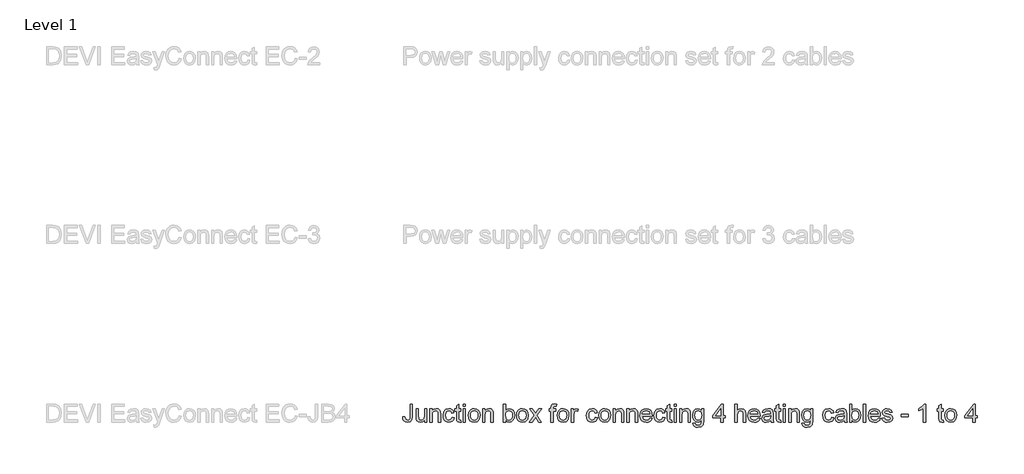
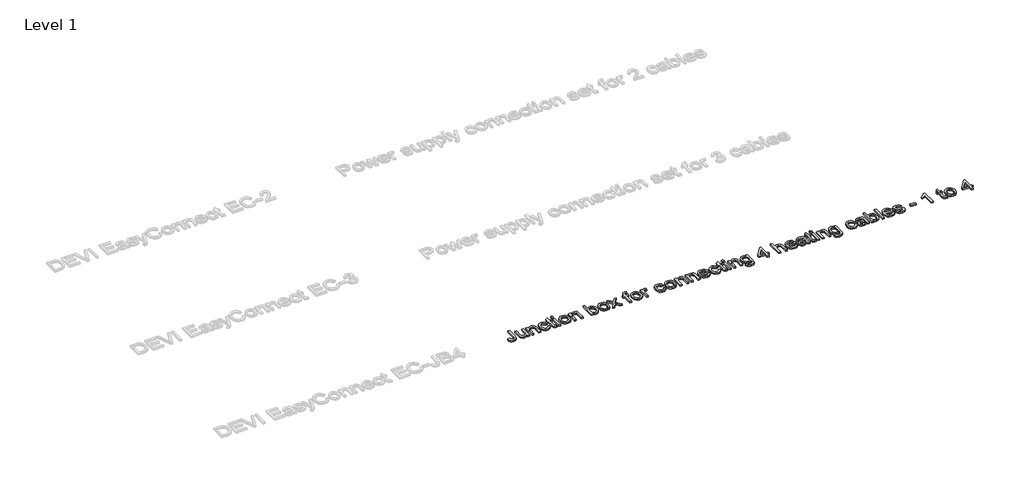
# One storey, part 2 of 11: 1 proxy.
"""IFC4 building model written with IfcOpenShell, lengths in millimetres."""

from ifc_helpers import new_model, si_unit, origin, origin_with_axes, place, context, project, spatial, polyline, outline, extrude, element, save

model = new_model("IFC4")

# Units and contexts
model_context = context("Model", 3, world=origin())
ifc_project = project(units=[si_unit("LENGTHUNIT", "METRE", prefix="MILLI")], contexts=[model_context])

# Site, building, storey
site = spatial("IfcSite", under=ifc_project)
building = spatial("IfcBuilding", under=site)
storey = spatial("IfcBuildingStorey", under=building, Name="Level 1", Elevation=0.0)

# Proxy
placement = place(None, origin())
element("IfcBuildingElementProxy", 1, Name="100mm Arial", ObjectType="100mm Arial", at=placement, inside=storey, context=model_context, shape_type="SweptSolid", body=[
    extrude(outline(polyline([(4538.675956, -455.0615641), (4551.2329947, -453.4428833), (4555.5249514, -468.2807905), (4566.1199528, -472.2784415), (4574.7161288, -470.0098358), (4579.6947984, -463.8294183), (4581.0559618, -451.3827441), (4581.0559618, -382.8095402), (4593.6130006, -382.8095402), (4593.6130006, -451.1620149), (4590.5841055, -470.6720234), (4580.9701227, -481.2057112), (4565.5313416, -484.8354802), (4553.9246647, -482.9623477), (4545.3959338, -477.3429503), (4540.2210604, -468.0263387), (4538.675956, -455.0615641)])), origin_with_axes(), (0.0, 0.0, 1.0), 10.0),
    extrude(outline(polyline([(4661.107084, -483.2658504), (4661.107084, -470.5861843), (4651.272372, -481.2731562), (4638.4455531, -484.8354802), (4626.636541, -482.3338827), (4618.4940862, -476.0553633), (4614.7539526, -466.8092625), (4614.0181886, -455.1351405), (4614.0181886, -409.4932476), (4626.5752274, -409.4932476), (4626.5752274, -449.2245031), (4627.3355168, -462.0267965), (4632.3019237, -469.543852), (4641.6583892, -472.2784415), (4652.143026, -469.4825383), (4659.0714703, -461.867381), (4661.107084, -447.8756025), (4661.107084, -409.4932476), (4673.6641227, -409.4932476), (4673.6641227, -483.2658504), (4661.107084, -483.2658504)])), origin_with_axes(), (0.0, 0.0, 1.0), 10.0),
    extrude(outline(polyline([(4690.930051, -483.2658504), (4690.930051, -409.4932476), (4703.4870898, -409.4932476), (4703.4870898, -419.7939435), (4713.0888099, -410.8911992), (4726.1976716, -407.9236178), (4738.0557346, -410.3148507), (4746.1491385, -416.5933701), (4749.9137976, -425.8272082), (4750.5759852, -437.9673141), (4750.5759852, -483.2658504), (4738.0189464, -483.2658504), (4738.0189464, -439.6595712), (4736.5719439, -428.549535), (4731.4583842, -422.6756858), (4722.8376828, -420.4806565), (4709.2137862, -425.4102753), (4704.9187639, -432.5533174), (4703.4870898, -444.1232061), (4703.4870898, -483.2658504), (4690.930051, -483.2658504)])), origin_with_axes(), (0.0, 0.0, 1.0), 10.0),
    extrude(outline(polyline([(4814.9308089, -456.582143), (4827.4878477, -458.1517729), (4823.9868373, -469.3200571), (4817.407881, -477.7598832), (4808.3702466, -483.066581), (4797.4932023, -484.8354802), (4784.1360202, -482.3676052), (4773.6912372, -474.96398), (4766.9497997, -462.9495672), (4764.7026538, -446.6493291), (4768.5408893, -425.79042), (4780.2395367, -412.3872527), (4797.321524, -407.9236178), (4807.9318539, -409.4564594), (4816.4145996, -414.0549844), (4822.4999809, -421.4739379), (4825.9182178, -431.4680655), (4813.361179, -433.0376953), (4807.5363808, -423.632179), (4797.4196259, -420.4806565), (4789.3047622, -422.0318923), (4782.8637616, -426.6855995), (4778.6607098, -434.6931643), (4777.2596926, -446.3059726), (4778.630053, -458.0751308), (4782.7411343, -466.1102867), (4789.0656389, -470.7364028), (4797.0762694, -472.2784415), (4808.9098069, -468.4279433), (4814.9308089, -456.582143)])), origin_with_axes(), (0.0, 0.0, 1.0), 10.0),
    extrude(outline(polyline([(4865.158964, -472.7934763), (4866.7285938, -483.6337324), (4857.3353402, -484.8354802), (4846.8139151, -482.7508156), (4841.5654653, -477.2816366), (4840.0448864, -463.0323407), (4840.0448864, -422.0502864), (4830.6271073, -422.0502864), (4830.6271073, -409.4932476), (4840.0448864, -409.4932476), (4840.0448864, -391.5651317), (4852.6019252, -384.1829664), (4852.6019252, -409.4932476), (4865.158964, -409.4932476), (4865.158964, -422.0502864), (4852.6019252, -422.0502864), (4852.6019252, -462.6644587), (4853.2641128, -469.1391818), (4855.4100911, -471.4323129), (4859.689785, -472.2784415), (4865.158964, -472.7934763)])), origin_with_axes(), (0.0, 0.0, 1.0), 10.0),
    extrude(outline(polyline([(4877.7160027, -395.366579), (4877.7160027, -382.8095402), (4890.2730415, -382.8095402), (4890.2730415, -395.366579), (4877.7160027, -395.366579)])), origin_with_axes(), (0.0, 0.0, 1.0), 10.0),
    extrude(outline(polyline([(4877.7160027, -483.2658504), (4877.7160027, -409.4932476), (4890.2730415, -409.4932476), (4890.2730415, -483.2658504), (4877.7160027, -483.2658504)])), origin_with_axes(), (0.0, 0.0, 1.0), 10.0),
    extrude(outline(polyline([(4905.96934, -446.379549), (4908.6855354, -428.5924545), (4916.8341215, -416.0905981), (4926.9018255, -409.9653629), (4938.9560922, -407.9236178), (4952.1477274, -410.4098869), (4962.6844809, -417.8686944), (4969.5914653, -429.7114289), (4971.8937935, -445.3494794), (4967.8225661, -467.6921793), (4955.9645031, -480.3350572), (4938.9560922, -484.8354802), (4925.6050414, -482.3584081), (4915.0805507, -474.9271918), (4908.2471426, -462.8361369), (4905.96934, -446.379549)]), holes=[polyline([(4918.5263787, -446.3550235), (4919.9795126, -457.7195115), (4924.3389142, -465.8159811), (4930.8994765, -470.6628264), (4938.9560922, -472.2784415), (4946.9759197, -470.6536293), (4953.5242192, -465.7791929), (4957.8836208, -457.5754244), (4959.3367547, -445.9626161), (4957.8744238, -434.9292219), (4953.487431, -426.9431169), (4946.9299344, -422.0962716), (4938.9560922, -420.4806565), (4930.8994765, -422.0901403), (4924.3389142, -426.9185915), (4919.9795126, -434.9966669), (4918.5263787, -446.3550235)])]), origin_with_axes(), (0.0, 0.0, 1.0), 10.0),
    extrude(outline(polyline([(4986.0204621, -483.2658504), (4986.0204621, -409.4932476), (4998.5775009, -409.4932476), (4998.5775009, -419.7939435), (5008.1792209, -410.8911992), (5021.2880827, -407.9236178), (5033.1461457, -410.3148507), (5041.2395496, -416.5933701), (5045.0042087, -425.8272082), (5045.6663963, -437.9673141), (5045.6663963, -483.2658504), (5033.1093575, -483.2658504), (5033.1093575, -439.6595712), (5031.662355, -428.549535), (5026.5487952, -422.6756858), (5017.9280938, -420.4806565), (5004.3041973, -425.4102753), (5000.009175, -432.5533174), (4998.5775009, -444.1232061), (4998.5775009, -483.2658504), (4986.0204621, -483.2658504)])), origin_with_axes(), (0.0, 0.0, 1.0), 10.0),
    extrude(outline(polyline([(5114.7301095, -483.2658504), (5102.1730707, -483.2658504), (5102.1730707, -382.8095402), (5114.7301095, -382.8095402), (5114.7301095, -420.0637236), (5123.5224892, -410.9586442), (5134.4485844, -407.9236178), (5147.0301487, -410.6582073), (5156.7912843, -418.346941), (5162.7877608, -430.3031058), (5164.9582646, -445.275903), (5162.7111187, -462.0390593), (5155.9696811, -474.5102589), (5146.0767212, -482.2541749), (5134.375008, -484.8354802), (5123.2097895, -481.5061482), (5114.7301095, -471.518152), (5114.7301095, -483.2658504)]), holes=[polyline([(5114.7301095, -445.8645142), (5118.1636748, -463.4247481), (5124.7426311, -470.0650181), (5133.2958875, -472.2784415), (5140.5431628, -470.647498), (5146.7358431, -465.7546674), (5150.9848801, -457.6306067), (5152.4012258, -446.3059726), (5151.0431281, -434.8157916), (5146.968835, -426.7837014), (5140.9692928, -422.0564178), (5133.8354478, -420.4806565), (5126.5881725, -422.1116001), (5120.3954922, -427.0044306), (5116.1464552, -434.9813385), (5114.7301095, -445.8645142)])]), origin_with_axes(), (0.0, 0.0, 1.0), 10.0),
    extrude(outline(polyline([(5175.9456735, -446.379549), (5178.6618689, -428.5924545), (5186.8104551, -416.0905981), (5196.878159, -409.9653629), (5208.9324257, -407.9236178), (5222.1240609, -410.4098869), (5232.6608144, -417.8686944), (5239.5677989, -429.7114289), (5241.870127, -445.3494794), (5237.7988996, -467.6921793), (5225.9408366, -480.3350572), (5208.9324257, -484.8354802), (5195.581375, -482.3584081), (5185.0568842, -474.9271918), (5178.2234762, -462.8361369), (5175.9456735, -446.379549)]), holes=[polyline([(5188.5027123, -446.3550235), (5189.9558461, -457.7195115), (5194.3152478, -465.8159811), (5200.87581, -470.6628264), (5208.9324257, -472.2784415), (5216.9522532, -470.6536293), (5223.5005527, -465.7791929), (5227.8599544, -457.5754244), (5229.3130883, -445.9626161), (5227.8507573, -434.9292219), (5223.4637645, -426.9431169), (5216.906268, -422.0962716), (5208.9324257, -420.4806565), (5200.87581, -422.0901403), (5194.3152478, -426.9185915), (5189.9558461, -434.9966669), (5188.5027123, -446.3550235)])]), origin_with_axes(), (0.0, 0.0, 1.0), 10.0),
    extrude(outline(polyline([(5248.1486464, -483.2658504), (5274.9795066, -446.1833453), (5249.7182762, -409.4932476), (5264.8259635, -409.4932476), (5277.0151203, -427.1515834), (5282.7050285, -435.4902419), (5287.6346472, -428.6721623), (5301.5160612, -409.4932476), (5316.6237484, -409.4932476), (5290.0871939, -446.1833453), (5315.6427298, -483.2658504), (5300.5350425, -483.2658504), (5285.1575751, -460.9722015), (5282.3371465, -456.9009741), (5263.2563337, -483.2658504), (5248.1486464, -483.2658504)])), origin_with_axes(), (0.0, 0.0, 1.0), 10.0),
    extrude(outline(polyline([(5369.0101446, -483.2658504), (5369.0101446, -422.0502864), (5358.0227356, -422.0502864), (5358.0227356, -409.4932476), (5369.0101446, -409.4932476), (5369.0101446, -402.0620313), (5370.3345197, -391.5896572), (5376.7601919, -384.10939), (5389.4153326, -381.2399104), (5400.8687253, -382.6133365), (5399.0293154, -394.3855604), (5391.7943028, -393.7969492), (5383.8848399, -395.8816138), (5381.5671833, -403.6561866), (5381.5671833, -409.4932476), (5395.6938519, -409.4932476), (5395.6938519, -422.0502864), (5381.5671833, -422.0502864), (5381.5671833, -483.2658504), (5369.0101446, -483.2658504)])), origin_with_axes(), (0.0, 0.0, 1.0), 10.0),
    extrude(outline(polyline([(5403.5420012, -446.379549), (5406.2581966, -428.5924545), (5414.4067828, -416.0905981), (5424.4744867, -409.9653629), (5436.5287534, -407.9236178), (5449.7203886, -410.4098869), (5460.2571421, -417.8686944), (5467.1641265, -429.7114289), (5469.4664547, -445.3494794), (5465.3952273, -467.6921793), (5453.5371643, -480.3350572), (5436.5287534, -484.8354802), (5423.1777027, -482.3584081), (5412.6532119, -474.9271918), (5405.8198039, -462.8361369), (5403.5420012, -446.379549)]), holes=[polyline([(5416.0990399, -446.3550235), (5417.5521738, -457.7195115), (5421.9115755, -465.8159811), (5428.4721377, -470.6628264), (5436.5287534, -472.2784415), (5444.5485809, -470.6536293), (5451.0968804, -465.7791929), (5455.4562821, -457.5754244), (5456.9094159, -445.9626161), (5455.447085, -434.9292219), (5451.0600922, -426.9431169), (5444.5025956, -422.0962716), (5436.5287534, -420.4806565), (5428.4721377, -422.0901403), (5421.9115755, -426.9185915), (5417.5521738, -434.9966669), (5416.0990399, -446.3550235)])]), origin_with_axes(), (0.0, 0.0, 1.0), 10.0),
    extrude(outline(polyline([(5483.5931233, -483.2658504), (5483.5931233, -409.4932476), (5494.5805322, -409.4932476), (5494.5805322, -420.4070801), (5502.3796305, -410.3516389), (5510.2277798, -407.9236178), (5522.8338695, -411.7986415), (5518.6400147, -423.0558305), (5509.8108468, -420.4806565), (5502.7107243, -422.9577286), (5498.1857758, -429.8248592), (5496.1501621, -444.4910881), (5496.1501621, -483.2658504), (5483.5931233, -483.2658504)])), origin_with_axes(), (0.0, 0.0, 1.0), 10.0),
    extrude(outline(polyline([(5617.0116602, -456.582143), (5629.568699, -458.1517729), (5626.0676887, -469.3200571), (5619.4887323, -477.7598832), (5610.451098, -483.066581), (5599.5740537, -484.8354802), (5586.2168716, -482.3676052), (5575.7720886, -474.96398), (5569.030651, -462.9495672), (5566.7835052, -446.6493291), (5570.6217406, -425.79042), (5582.3203881, -412.3872527), (5599.4023754, -407.9236178), (5610.0127053, -409.4564594), (5618.4954509, -414.0549844), (5624.5808323, -421.4739379), (5627.9990692, -431.4680655), (5615.4420304, -433.0376953), (5609.6172321, -423.632179), (5599.5004773, -420.4806565), (5591.3856136, -422.0318923), (5584.944613, -426.6855995), (5580.7415612, -434.6931643), (5579.3405439, -446.3059726), (5580.7109044, -458.0751308), (5584.8219857, -466.1102867), (5591.1464903, -470.7364028), (5599.1571207, -472.2784415), (5610.9906582, -468.4279433), (5617.0116602, -456.582143)])), origin_with_axes(), (0.0, 0.0, 1.0), 10.0),
    extrude(outline(polyline([(5637.4168482, -446.379549), (5640.1330436, -428.5924545), (5648.2816298, -416.0905981), (5658.3493338, -409.9653629), (5670.4036005, -407.9236178), (5683.5952357, -410.4098869), (5694.1319892, -417.8686944), (5701.0389736, -429.7114289), (5703.3413018, -445.3494794), (5699.2700744, -467.6921793), (5687.4120114, -480.3350572), (5670.4036005, -484.8354802), (5657.0525497, -482.3584081), (5646.528059, -474.9271918), (5639.6946509, -462.8361369), (5637.4168482, -446.379549)]), holes=[polyline([(5649.973887, -446.3550235), (5651.4270209, -457.7195115), (5655.7864225, -465.8159811), (5662.3469848, -470.6628264), (5670.4036005, -472.2784415), (5678.423428, -470.6536293), (5684.9717275, -465.7791929), (5689.3311291, -457.5754244), (5690.784263, -445.9626161), (5689.3219321, -434.9292219), (5684.9349393, -426.9431169), (5678.3774427, -422.0962716), (5670.4036005, -420.4806565), (5662.3469848, -422.0901403), (5655.7864225, -426.9185915), (5651.4270209, -434.9966669), (5649.973887, -446.3550235)])]), origin_with_axes(), (0.0, 0.0, 1.0), 10.0),
    extrude(outline(polyline([(5717.4679704, -483.2658504), (5717.4679704, -409.4932476), (5730.0250092, -409.4932476), (5730.0250092, -419.7939435), (5739.6267292, -410.8911992), (5752.735591, -407.9236178), (5764.593654, -410.3148507), (5772.6870579, -416.5933701), (5776.4517169, -425.8272082), (5777.1139045, -437.9673141), (5777.1139045, -483.2658504), (5764.5568658, -483.2658504), (5764.5568658, -439.6595712), (5763.1098633, -428.549535), (5757.9963035, -422.6756858), (5749.3756021, -420.4806565), (5735.7517055, -425.4102753), (5731.4566833, -432.5533174), (5730.0250092, -444.1232061), (5730.0250092, -483.2658504), (5717.4679704, -483.2658504)])), origin_with_axes(), (0.0, 0.0, 1.0), 10.0),
    extrude(outline(polyline([(5794.3798328, -483.2658504), (5794.3798328, -409.4932476), (5806.9368716, -409.4932476), (5806.9368716, -419.7939435), (5816.5385917, -410.8911992), (5829.6474534, -407.9236178), (5841.5055164, -410.3148507), (5849.5989203, -416.5933701), (5853.3635794, -425.8272082), (5854.025767, -437.9673141), (5854.025767, -483.2658504), (5841.4687282, -483.2658504), (5841.4687282, -439.6595712), (5840.0217257, -428.549535), (5834.908166, -422.6756858), (5826.2874646, -420.4806565), (5812.663568, -425.4102753), (5808.3685457, -432.5533174), (5806.9368716, -444.1232061), (5806.9368716, -483.2658504), (5794.3798328, -483.2658504)])), origin_with_axes(), (0.0, 0.0, 1.0), 10.0),
    extrude(outline(polyline([(5922.9423274, -461.2910325), (5935.2541115, -462.8606624), (5930.8180678, -472.13742), (5923.7394051, -479.0719956), (5914.1775389, -483.3946091), (5902.2918848, -484.8354802), (5887.5582109, -482.3492111), (5876.221314, -474.8904036), (5868.9924328, -462.9434358), (5866.5828058, -446.9926857), (5869.0169583, -430.5054409), (5876.3194159, -418.1752627), (5887.5030286, -410.486529), (5901.5806462, -407.9236178), (5915.2198712, -410.4803976), (5926.1183753, -418.1507372), (5933.2644831, -430.45639), (5935.646519, -446.9191093), (5935.5729426, -450.3036236), (5879.1398445, -450.3036236), (5881.313414, -459.7030086), (5886.3625944, -466.6130587), (5893.6497236, -470.8620958), (5902.5371394, -472.2784415), (5914.8489235, -469.6542166), (5922.9423274, -461.2910325)]), holes=[polyline([(5879.1398445, -437.7465849), (5923.0894802, -437.7465849), (5918.0617596, -426.3667685), (5910.7409079, -421.9521845), (5901.5315953, -420.4806565), (5886.0682888, -425.1772834), (5881.2030494, -430.6679221), (5879.1398445, -437.7465849)])]), origin_with_axes(), (0.0, 0.0, 1.0), 10.0),
    extrude(outline(polyline([(5995.2924531, -456.582143), (6007.8494919, -458.1517729), (6004.3484816, -469.3200571), (5997.7695252, -477.7598832), (5988.7318909, -483.066581), (5977.8548466, -484.8354802), (5964.4976645, -482.3676052), (5954.0528815, -474.96398), (5947.3114439, -462.9495672), (5945.0642981, -446.6493291), (5948.9025335, -425.79042), (5960.601181, -412.3872527), (5977.6831683, -407.9236178), (5988.2934982, -409.4564594), (5996.7762439, -414.0549844), (6002.8616252, -421.4739379), (6006.2798621, -431.4680655), (5993.7228233, -433.0376953), (5987.898025, -423.632179), (5977.7812702, -420.4806565), (5969.6664065, -422.0318923), (5963.2254059, -426.6855995), (5959.0223541, -434.6931643), (5957.6213368, -446.3059726), (5958.9916973, -458.0751308), (5963.1027786, -466.1102867), (5969.4272832, -470.7364028), (5977.4379136, -472.2784415), (5989.2714512, -468.4279433), (5995.2924531, -456.582143)])), origin_with_axes(), (0.0, 0.0, 1.0), 10.0),
    extrude(outline(polyline([(6045.5206082, -472.7934763), (6047.0902381, -483.6337324), (6037.6969845, -484.8354802), (6027.1755594, -482.7508156), (6021.9271096, -477.2816366), (6020.4065307, -463.0323407), (6020.4065307, -422.0502864), (6010.9887516, -422.0502864), (6010.9887516, -409.4932476), (6020.4065307, -409.4932476), (6020.4065307, -391.5651317), (6032.9635694, -384.1829664), (6032.9635694, -409.4932476), (6045.5206082, -409.4932476), (6045.5206082, -422.0502864), (6032.9635694, -422.0502864), (6032.9635694, -462.6644587), (6033.625757, -469.1391818), (6035.7717353, -471.4323129), (6040.0514292, -472.2784415), (6045.5206082, -472.7934763)])), origin_with_axes(), (0.0, 0.0, 1.0), 10.0),
    extrude(outline(polyline([(6058.077647, -395.366579), (6058.077647, -382.8095402), (6070.6346858, -382.8095402), (6070.6346858, -395.366579), (6058.077647, -395.366579)])), origin_with_axes(), (0.0, 0.0, 1.0), 10.0),
    extrude(outline(polyline([(6058.077647, -483.2658504), (6058.077647, -409.4932476), (6070.6346858, -409.4932476), (6070.6346858, -483.2658504), (6058.077647, -483.2658504)])), origin_with_axes(), (0.0, 0.0, 1.0), 10.0),
    extrude(outline(polyline([(6089.4702439, -483.2658504), (6089.4702439, -409.4932476), (6102.0272827, -409.4932476), (6102.0272827, -419.7939435), (6111.6290027, -410.8911992), (6124.7378645, -407.9236178), (6136.5959275, -410.3148507), (6144.6893314, -416.5933701), (6148.4539905, -425.8272082), (6149.1161781, -437.9673141), (6149.1161781, -483.2658504), (6136.5591393, -483.2658504), (6136.5591393, -439.6595712), (6135.1121368, -428.549535), (6129.998577, -422.6756858), (6121.3778756, -420.4806565), (6107.7539791, -425.4102753), (6103.4589568, -432.5533174), (6102.0272827, -444.1232061), (6102.0272827, -483.2658504), (6089.4702439, -483.2658504)])), origin_with_axes(), (0.0, 0.0, 1.0), 10.0),
    extrude(outline(polyline([(6163.2428467, -489.5443698), (6175.7998854, -491.1139996), (6179.8711129, -497.7358755), (6192.0602696, -500.5317787), (6204.911614, -497.3679935), (6211.0429806, -488.4897747), (6211.9013719, -473.8480713), (6203.0599413, -480.9114056), (6192.2809988, -483.2658504), (6179.3346183, -480.5251295), (6169.6807816, -472.3029669), (6163.675108, -460.2487002), (6161.6732168, -446.011667), (6165.2661976, -426.5507095), (6175.6649954, -412.7796601), (6191.6678622, -407.9236178), (6202.8698689, -410.67047), (6211.9013719, -418.9110267), (6211.9013719, -409.4932476), (6224.4584107, -409.4932476), (6224.4584107, -473.1858837), (6221.0248454, -497.57646), (6210.1478011, -508.9194882), (6191.815015, -513.0888175), (6180.1316959, -511.6203552), (6170.9315804, -507.2149683), (6165.03014, -499.8603941), (6163.2428467, -489.5443698)]), holes=[polyline([(6174.2302556, -445.1532757), (6175.5699592, -456.6710478), (6179.58907, -464.5897078), (6185.6315318, -469.1790357), (6193.0412883, -470.7088116), (6200.3958625, -469.1882327), (6206.4689811, -464.626496), (6210.5432742, -456.8090036), (6211.9013719, -445.5211577), (6210.5034203, -434.6349163), (6206.3095656, -426.7959641), (6200.1475422, -422.0594834), (6192.8450846, -420.4806565), (6185.6744513, -422.034958), (6179.6626464, -426.6978623), (6175.5883533, -434.4203185), (6174.2302556, -445.1532757)])]), origin_with_axes(), (0.0, 0.0, 1.0), 10.0),
    extrude(outline(polyline([(6320.2058313, -483.2658504), (6320.2058313, -459.7214027), (6274.6865657, -459.7214027), (6274.6865657, -447.1643639), (6323.345091, -384.3791701), (6332.76287, -384.3791701), (6332.76287, -447.1643639), (6345.3199088, -447.1643639), (6345.3199088, -459.7214027), (6332.76287, -459.7214027), (6332.76287, -483.2658504), (6320.2058313, -483.2658504)]), holes=[polyline([(6320.2058313, -447.1643639), (6320.2058313, -408.3650762), (6290.1376095, -447.1643639), (6320.2058313, -447.1643639)])]), origin_with_axes(), (0.0, 0.0, 1.0), 10.0),
    extrude(outline(polyline([(6398.6873236, -483.2658504), (6398.6873236, -382.8095402), (6411.2443624, -382.8095402), (6411.2443624, -419.7448926), (6421.0361548, -410.8789365), (6433.0965529, -407.9236178), (6447.198696, -411.1487166), (6455.7580838, -420.0637236), (6458.3332577, -436.5693625), (6458.3332577, -483.2658504), (6445.776219, -483.2658504), (6445.776219, -437.8692122), (6441.778568, -424.6254604), (6430.4478025, -420.4806565), (6420.1593694, -423.2765597), (6413.2922388, -430.8549288), (6411.2443624, -444.0741552), (6411.2443624, -483.2658504), (6398.6873236, -483.2658504)])), origin_with_axes(), (0.0, 0.0, 1.0), 10.0),
    extrude(outline(polyline([(6527.2498182, -461.2910325), (6539.5616023, -462.8606624), (6535.1255585, -472.13742), (6528.0468958, -479.0719956), (6518.4850296, -483.3946091), (6506.5993755, -484.8354802), (6491.8657016, -482.3492111), (6480.5288048, -474.8904036), (6473.2999236, -462.9434358), (6470.8902965, -446.9926857), (6473.324449, -430.5054409), (6480.6269066, -418.1752627), (6491.8105193, -410.486529), (6505.888137, -407.9236178), (6519.527362, -410.4803976), (6530.4258661, -418.1507372), (6537.5719738, -430.45639), (6539.9540097, -446.9191093), (6539.8804333, -450.3036236), (6483.4473353, -450.3036236), (6485.6209047, -459.7030086), (6490.6700851, -466.6130587), (6497.9572143, -470.8620958), (6506.8446302, -472.2784415), (6519.1564143, -469.6542166), (6527.2498182, -461.2910325)]), holes=[polyline([(6483.4473353, -437.7465849), (6527.396971, -437.7465849), (6522.3692504, -426.3667685), (6515.0483987, -421.9521845), (6505.839086, -420.4806565), (6490.3757795, -425.1772834), (6485.5105401, -430.6679221), (6483.4473353, -437.7465849)])]), origin_with_axes(), (0.0, 0.0, 1.0), 10.0),
    extrude(outline(polyline([(6599.5999439, -473.8480713), (6587.4230498, -482.3584081), (6573.9708316, -484.8354802), (6563.4769976, -483.3455582), (6555.7361473, -478.8757919), (6550.9628784, -472.0883691), (6549.3717888, -463.6454773), (6551.7752845, -453.7126634), (6558.0905921, -446.5021763), (6566.8829718, -442.381898), (6577.7477534, -440.4934371), (6599.5263675, -436.176955), (6599.5999439, -433.3810518), (6596.1418531, -424.1104256), (6582.2604392, -420.4806565), (6569.5562476, -422.896415), (6563.4984574, -431.4680655), (6550.9414187, -429.8984356), (6556.3738095, -417.6357025), (6567.3121674, -410.4497408), (6583.87912, -407.9236178), (6599.0971718, -410.1554352), (6607.6933478, -415.7595043), (6611.543846, -424.2821038), (6612.1569827, -435.2695128), (6612.1569827, -450.8922348), (6612.7946448, -472.7076371), (6615.2962423, -483.2658504), (6602.7392036, -483.2658504), (6599.5999439, -473.8480713)]), holes=[polyline([(6599.5999439, -448.7339938), (6579.3419087, -452.584492), (6568.5384408, -454.6201057), (6563.6456102, -457.9310437), (6561.9288276, -462.7625605), (6565.6689612, -469.5561147), (6576.6441074, -472.2784415), (6589.348299, -469.2740718), (6597.5398047, -462.0022711), (6599.5263675, -452.2901864), (6599.5999439, -448.7339938)])]), origin_with_axes(), (0.0, 0.0, 1.0), 10.0),
    extrude(outline(polyline([(6656.1066183, -472.7934763), (6657.6762482, -483.6337324), (6648.2829946, -484.8354802), (6637.7615695, -482.7508156), (6632.5131197, -477.2816366), (6630.9925408, -463.0323407), (6630.9925408, -422.0502864), (6621.5747617, -422.0502864), (6621.5747617, -409.4932476), (6630.9925408, -409.4932476), (6630.9925408, -391.5651317), (6643.5495796, -384.1829664), (6643.5495796, -409.4932476), (6656.1066183, -409.4932476), (6656.1066183, -422.0502864), (6643.5495796, -422.0502864), (6643.5495796, -462.6644587), (6644.2117672, -469.1391818), (6646.3577455, -471.4323129), (6650.6374393, -472.2784415), (6656.1066183, -472.7934763)])), origin_with_axes(), (0.0, 0.0, 1.0), 10.0),
    extrude(outline(polyline([(6668.6636571, -395.366579), (6668.6636571, -382.8095402), (6681.2206959, -382.8095402), (6681.2206959, -395.366579), (6668.6636571, -395.366579)])), origin_with_axes(), (0.0, 0.0, 1.0), 10.0),
    extrude(outline(polyline([(6668.6636571, -483.2658504), (6668.6636571, -409.4932476), (6681.2206959, -409.4932476), (6681.2206959, -483.2658504), (6668.6636571, -483.2658504)])), origin_with_axes(), (0.0, 0.0, 1.0), 10.0),
    extrude(outline(polyline([(6700.056254, -483.2658504), (6700.056254, -409.4932476), (6712.6132928, -409.4932476), (6712.6132928, -419.7939435), (6722.2150129, -410.8911992), (6735.3238746, -407.9236178), (6747.1819376, -410.3148507), (6755.2753415, -416.5933701), (6759.0400006, -425.8272082), (6759.7021882, -437.9673141), (6759.7021882, -483.2658504), (6747.1451494, -483.2658504), (6747.1451494, -439.6595712), (6745.6981469, -428.549535), (6740.5845872, -422.6756858), (6731.9638857, -420.4806565), (6718.3399892, -425.4102753), (6714.0449669, -432.5533174), (6712.6132928, -444.1232061), (6712.6132928, -483.2658504), (6700.056254, -483.2658504)])), origin_with_axes(), (0.0, 0.0, 1.0), 10.0),
    extrude(outline(polyline([(6773.8288568, -489.5443698), (6786.3858956, -491.1139996), (6790.457123, -497.7358755), (6802.6462798, -500.5317787), (6815.4976241, -497.3679935), (6821.6289907, -488.4897747), (6822.487382, -473.8480713), (6813.6459514, -480.9114056), (6802.867009, -483.2658504), (6789.9206284, -480.5251295), (6780.2667917, -472.3029669), (6774.2611181, -460.2487002), (6772.259227, -446.011667), (6775.8522078, -426.5507095), (6786.2510055, -412.7796601), (6802.2538723, -407.9236178), (6813.455879, -410.67047), (6822.487382, -418.9110267), (6822.487382, -409.4932476), (6835.0444208, -409.4932476), (6835.0444208, -473.1858837), (6831.6108555, -497.57646), (6820.7338112, -508.9194882), (6802.4010251, -513.0888175), (6790.7177061, -511.6203552), (6781.5175905, -507.2149683), (6775.6161502, -499.8603941), (6773.8288568, -489.5443698)]), holes=[polyline([(6784.8162657, -445.1532757), (6786.1559693, -456.6710478), (6790.1750801, -464.5897078), (6796.2175419, -469.1790357), (6803.6272984, -470.7088116), (6810.9818726, -469.1882327), (6817.0549912, -464.626496), (6821.1292843, -456.8090036), (6822.487382, -445.5211577), (6821.0894304, -434.6349163), (6816.8955757, -426.7959641), (6810.7335523, -422.0594834), (6803.4310947, -420.4806565), (6796.2604615, -422.034958), (6790.2486565, -426.6978623), (6786.1743634, -434.4203185), (6784.8162657, -445.1532757)])]), origin_with_axes(), (0.0, 0.0, 1.0), 10.0),
    extrude(outline(polyline([(6940.2096205, -456.582143), (6952.7666593, -458.1517729), (6949.2656489, -469.3200571), (6942.6866926, -477.7598832), (6933.6490582, -483.066581), (6922.7720139, -484.8354802), (6909.4148318, -482.3676052), (6898.9700488, -474.96398), (6892.2286113, -462.9495672), (6889.9814654, -446.6493291), (6893.8197009, -425.79042), (6905.5183483, -412.3872527), (6922.6003357, -407.9236178), (6933.2106655, -409.4564594), (6941.6934112, -414.0549844), (6947.7787925, -421.4739379), (6951.1970294, -431.4680655), (6938.6399906, -433.0376953), (6932.8151924, -423.632179), (6922.6984375, -420.4806565), (6914.5835738, -422.0318923), (6908.1425732, -426.6855995), (6903.9395214, -434.6931643), (6902.5385042, -446.3059726), (6903.9088646, -458.0751308), (6908.0199459, -466.1102867), (6914.3444505, -470.7364028), (6922.355081, -472.2784415), (6934.1886185, -468.4279433), (6940.2096205, -456.582143)])), origin_with_axes(), (0.0, 0.0, 1.0), 10.0),
    extrude(outline(polyline([(7010.8429636, -473.8480713), (6998.6660695, -482.3584081), (6985.2138512, -484.8354802), (6974.7200173, -483.3455582), (6966.979167, -478.8757919), (6962.2058981, -472.0883691), (6960.6148085, -463.6454773), (6963.0183042, -453.7126634), (6969.3336118, -446.5021763), (6978.1259915, -442.381898), (6988.990773, -440.4934371), (7010.7693872, -436.176955), (7010.8429636, -433.3810518), (7007.3848728, -424.1104256), (6993.5034589, -420.4806565), (6980.7992673, -422.896415), (6974.7414771, -431.4680655), (6962.1844383, -429.8984356), (6967.6168291, -417.6357025), (6978.5551871, -410.4497408), (6995.1221396, -407.9236178), (7010.3401915, -410.1554352), (7018.9363675, -415.7595043), (7022.7868657, -424.2821038), (7023.4000023, -435.2695128), (7023.4000023, -450.8922348), (7024.0376645, -472.7076371), (7026.539262, -483.2658504), (7013.9822233, -483.2658504), (7010.8429636, -473.8480713)]), holes=[polyline([(7010.8429636, -448.7339938), (6990.5849284, -452.584492), (6979.7814604, -454.6201057), (6974.8886299, -457.9310437), (6973.1718473, -462.7625605), (6976.9119809, -469.5561147), (6987.8871271, -472.2784415), (7000.5913186, -469.2740718), (7008.7828244, -462.0022711), (7010.7693872, -452.2901864), (7010.8429636, -448.7339938)])]), origin_with_axes(), (0.0, 0.0, 1.0), 10.0),
    extrude(outline(polyline([(7053.2229694, -483.2658504), (7040.6659306, -483.2658504), (7040.6659306, -382.8095402), (7053.2229694, -382.8095402), (7053.2229694, -420.0637236), (7062.0153491, -410.9586442), (7072.9414443, -407.9236178), (7085.5230086, -410.6582073), (7095.2841442, -418.346941), (7101.2806207, -430.3031058), (7103.4511245, -445.275903), (7101.2039786, -462.0390593), (7094.4625411, -474.5102589), (7084.5695811, -482.2541749), (7072.8678679, -484.8354802), (7061.7026494, -481.5061482), (7053.2229694, -471.518152), (7053.2229694, -483.2658504)]), holes=[polyline([(7053.2229694, -445.8645142), (7056.6565347, -463.4247481), (7063.235491, -470.0650181), (7071.7887474, -472.2784415), (7079.0360227, -470.647498), (7085.228703, -465.7546674), (7089.47774, -457.6306067), (7090.8940857, -446.3059726), (7089.535988, -434.8157916), (7085.4616949, -426.7837014), (7079.4621527, -422.0564178), (7072.3283077, -420.4806565), (7065.0810324, -422.1116001), (7058.8883521, -427.0044306), (7054.6393151, -434.9813385), (7053.2229694, -445.8645142)])]), origin_with_axes(), (0.0, 0.0, 1.0), 10.0),
    extrude(outline(polyline([(7117.5777931, -483.2658504), (7117.5777931, -382.8095402), (7130.1348319, -382.8095402), (7130.1348319, -483.2658504), (7117.5777931, -483.2658504)])), origin_with_axes(), (0.0, 0.0, 1.0), 10.0),
    extrude(outline(polyline([(7200.6210221, -461.2910325), (7212.9328062, -462.8606624), (7208.4967625, -472.13742), (7201.4180998, -479.0719956), (7191.8562336, -483.3946091), (7179.9705795, -484.8354802), (7165.2369056, -482.3492111), (7153.9000088, -474.8904036), (7146.6711275, -462.9434358), (7144.2615005, -446.9926857), (7146.695653, -430.5054409), (7153.9981106, -418.1752627), (7165.1817233, -410.486529), (7179.259341, -407.9236178), (7192.8985659, -410.4803976), (7203.79707, -418.1507372), (7210.9431778, -430.45639), (7213.3252137, -446.9191093), (7213.2516373, -450.3036236), (7156.8185392, -450.3036236), (7158.9921087, -459.7030086), (7164.0412891, -466.6130587), (7171.3284183, -470.8620958), (7180.2158341, -472.2784415), (7192.5276182, -469.6542166), (7200.6210221, -461.2910325)]), holes=[polyline([(7156.8185392, -437.7465849), (7200.7681749, -437.7465849), (7195.7404543, -426.3667685), (7188.4196026, -421.9521845), (7179.21029, -420.4806565), (7163.7469835, -425.1772834), (7158.8817441, -430.6679221), (7156.8185392, -437.7465849)])]), origin_with_axes(), (0.0, 0.0, 1.0), 10.0),
    extrude(outline(polyline([(7221.1733629, -461.2910325), (7233.7304017, -459.7214027), (7239.5429372, -469.0410799), (7252.8602655, -472.2784415), (7265.6625589, -469.31086), (7269.8318882, -462.3456276), (7265.6380334, -456.7047703), (7252.7131127, -453.1240523), (7233.8039781, -446.9804229), (7225.5511587, -439.806724), (7222.7429928, -429.6777064), (7224.9993357, -420.321241), (7231.1552277, -413.1720676), (7239.138267, -409.4564594), (7249.941735, -407.9236178), (7265.2211005, -410.3884271), (7274.9331852, -417.059354), (7279.2496672, -428.3288058), (7266.6926285, -429.8984356), (7261.9714762, -422.9699914), (7250.9227536, -420.4806565), (7238.9052751, -422.8596268), (7235.3000316, -428.4023822), (7236.796085, -432.0566767), (7241.4804491, -434.8280544), (7252.2961797, -437.5013302), (7270.7270677, -443.4119676), (7279.2864554, -450.1074199), (7282.3889269, -461.0212524), (7278.7468952, -473.0387309), (7268.2377329, -481.7575342), (7252.6885872, -484.8354802), (7240.0273152, -483.3516895), (7230.7873457, -478.9003174), (7224.619191, -471.5304147), (7221.1733629, -461.2910325)])), origin_with_axes(), (0.0, 0.0, 1.0), 10.0),
    extrude(outline(polyline([(7329.4778223, -453.4428833), (7329.4778223, -440.8858445), (7368.7185685, -440.8858445), (7368.7185685, -453.4428833), (7329.4778223, -453.4428833)])), origin_with_axes(), (0.0, 0.0, 1.0), 10.0),
    extrude(outline(polyline([(7466.0356189, -483.2658504), (7453.4785802, -483.2658504), (7453.4785802, -404.9805618), (7441.583729, -413.4541104), (7428.3645026, -419.7939435), (7428.3645026, -407.9236178), (7446.7708651, -396.1759194), (7457.942215, -382.8095402), (7466.0356189, -382.8095402), (7466.0356189, -483.2658504)])), origin_with_axes(), (0.0, 0.0, 1.0), 10.0),
    extrude(outline(polyline([(7564.9222992, -472.7934763), (7566.4919291, -483.6337324), (7557.0986755, -484.8354802), (7546.5772504, -482.7508156), (7541.3288006, -477.2816366), (7539.8082217, -463.0323407), (7539.8082217, -422.0502864), (7530.3904426, -422.0502864), (7530.3904426, -409.4932476), (7539.8082217, -409.4932476), (7539.8082217, -391.5651317), (7552.3652605, -384.1829664), (7552.3652605, -409.4932476), (7564.9222992, -409.4932476), (7564.9222992, -422.0502864), (7552.3652605, -422.0502864), (7552.3652605, -462.6644587), (7553.0274481, -469.1391818), (7555.1734264, -471.4323129), (7559.4531202, -472.2784415), (7564.9222992, -472.7934763)])), origin_with_axes(), (0.0, 0.0, 1.0), 10.0),
    extrude(outline(polyline([(7574.3400783, -446.379549), (7577.0562737, -428.5924545), (7585.2048599, -416.0905981), (7595.2725638, -409.9653629), (7607.3268305, -407.9236178), (7620.5184657, -410.4098869), (7631.0552192, -417.8686944), (7637.9622037, -429.7114289), (7640.2645318, -445.3494794), (7636.1933044, -467.6921793), (7624.3352414, -480.3350572), (7607.3268305, -484.8354802), (7593.9757798, -482.3584081), (7583.4512891, -474.9271918), (7576.617881, -462.8361369), (7574.3400783, -446.379549)]), holes=[polyline([(7586.8971171, -446.3550235), (7588.350251, -457.7195115), (7592.7096526, -465.8159811), (7599.2702148, -470.6628264), (7607.3268305, -472.2784415), (7615.346658, -470.6536293), (7621.8949575, -465.7791929), (7626.2543592, -457.5754244), (7627.7074931, -445.9626161), (7626.2451621, -434.9292219), (7621.8581693, -426.9431169), (7615.3006728, -422.0962716), (7607.3268305, -420.4806565), (7599.2702148, -422.0901403), (7592.7096526, -426.9185915), (7588.350251, -434.9966669), (7586.8971171, -446.3550235)])]), origin_with_axes(), (0.0, 0.0, 1.0), 10.0),
    extrude(outline(polyline([(7731.3030629, -483.2658504), (7731.3030629, -459.7214027), (7685.7837974, -459.7214027), (7685.7837974, -447.1643639), (7734.4423226, -384.3791701), (7743.8601017, -384.3791701), (7743.8601017, -447.1643639), (7756.4171405, -447.1643639), (7756.4171405, -459.7214027), (7743.8601017, -459.7214027), (7743.8601017, -483.2658504), (7731.3030629, -483.2658504)]), holes=[polyline([(7731.3030629, -447.1643639), (7731.3030629, -408.3650762), (7701.2348412, -447.1643639), (7731.3030629, -447.1643639)])]), origin_with_axes(), (0.0, 0.0, 1.0), 10.0),
])

save(model, "model.ifc")
